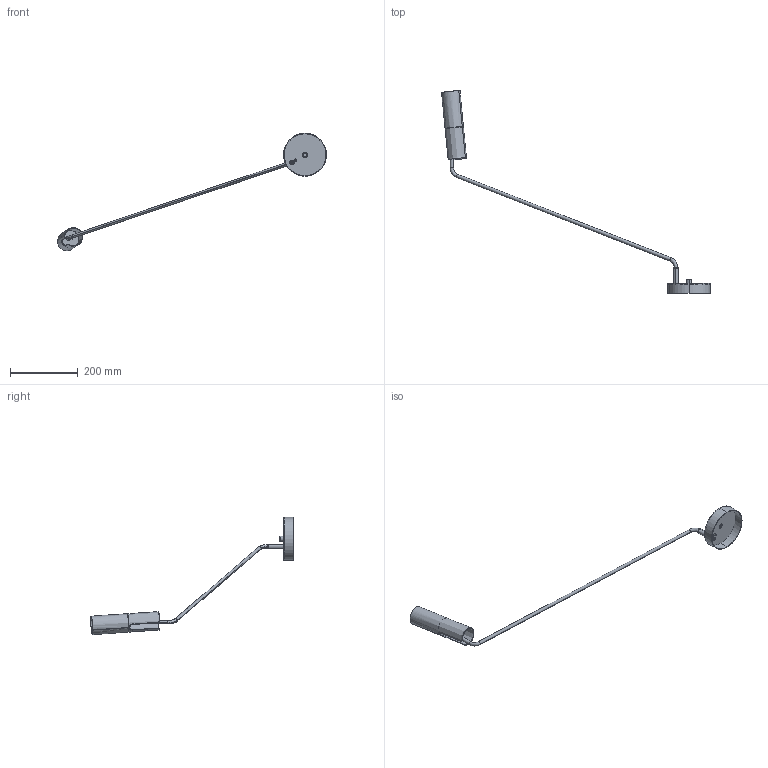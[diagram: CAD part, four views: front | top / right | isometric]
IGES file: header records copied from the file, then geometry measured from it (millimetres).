
Start section: SolidWorks IGES file using analytic representation for surfaces
Global section: file name: C:\Users\Asia\Desktop\Super Eye_6632,6630,6631.IGS; native system: SolidWorks 2016; preprocessor: SolidWorks 2016; author: Asia; date: 160803.115627; units: millimetre
Bounding box: 796.16 x 599.77 x 347.41 mm (x, y, z)
Surface area: 172915.4 mm2 (no closed solid volume)
Topology: 0 solids, 0 shells, 145 faces, 2390 edges, 2390 vertices
Faces by surface type: bspline 90, revolution 55
